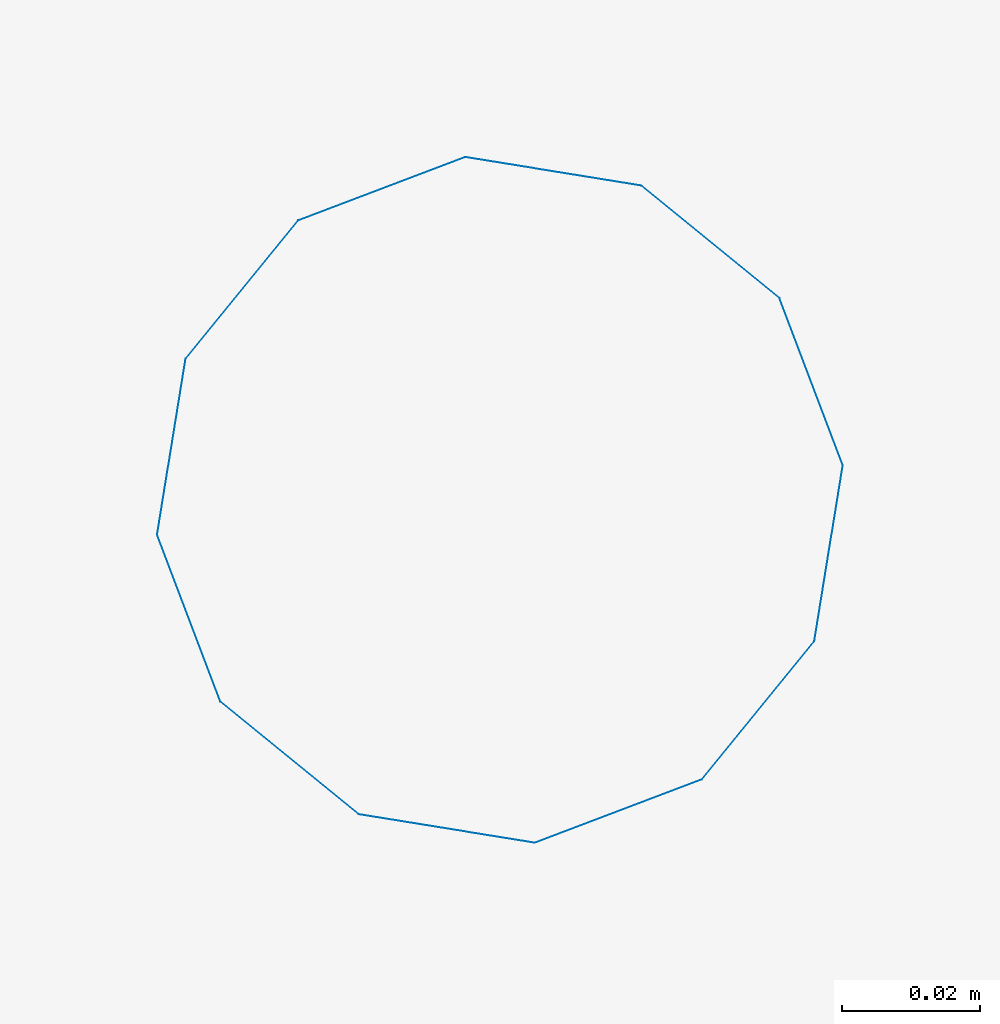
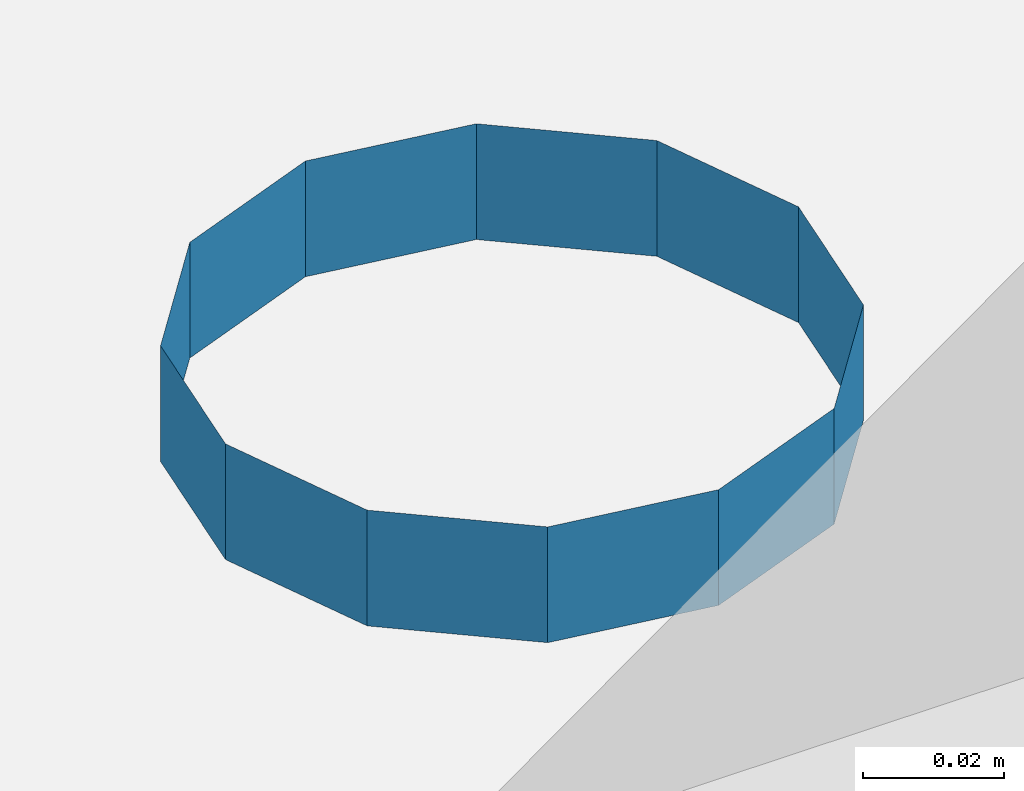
# One storey, part 102 of 171: 1 discrete accessory.
"""IFC2X3 building model written with IfcOpenShell, lengths in millimetres."""

from ifc_helpers import new_model, entity, si_unit, converted_unit, derived_unit, money_unit, direction, frame, origin_with_axes, place, context, subcontext, project, spatial, open_shell, surface_model, source, transform, mapped, type_object, element, save


model = new_model("IFC2X3")

# Units and contexts
model_context = context("Model", 3, precision=0.01, world=origin_with_axes(), true_north=direction((0.0, 1.0)))
body_context = subcontext(model_context, "Body", "Model", "MODEL_VIEW")
ifc_project = project(units=[si_unit("LENGTHUNIT", "METRE", prefix="MILLI"), si_unit("AREAUNIT", "SQUARE_METRE"), si_unit("VOLUMEUNIT", "CUBIC_METRE"), converted_unit("PLANEANGLEUNIT", "DEGREE", entity("IfcPlaneAngleMeasure", 0.0174532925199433), si_unit("PLANEANGLEUNIT", "RADIAN"), dimensions=[0, 0, 0, 0, 0, 0, 0]), money_unit("USD"), converted_unit("TIMEUNIT", "Year", entity("IfcTimeMeasure", 31557600.0), si_unit("TIMEUNIT", "SECOND"), dimensions=[0, 0, 1, 0, 0, 0, 0]), si_unit("MASSUNIT", "GRAM", prefix="KILO"), si_unit("THERMODYNAMICTEMPERATUREUNIT", "DEGREE_CELSIUS"), si_unit("LUMINOUSINTENSITYUNIT", "LUMEN"), si_unit("ENERGYUNIT", "JOULE", prefix="MEGA"), derived_unit("THERMALCONDUCTANCEUNIT", [(si_unit("POWERUNIT", "WATT"), 1), (si_unit("LENGTHUNIT", "METRE"), -1), (si_unit("THERMODYNAMICTEMPERATUREUNIT", "KELVIN"), -1)]), derived_unit("SPECIFICHEATCAPACITYUNIT", [(si_unit("ENERGYUNIT", "JOULE"), 1), (si_unit("MASSUNIT", "GRAM", prefix="KILO"), -1), (si_unit("THERMODYNAMICTEMPERATUREUNIT", "KELVIN"), -1)]), derived_unit("MASSDENSITYUNIT", [(si_unit("MASSUNIT", "GRAM", prefix="KILO"), 1), (si_unit("VOLUMEUNIT", "CUBIC_METRE"), -1)])], contexts=[model_context])

# Site, building, storey
site_placement = place(None, origin_with_axes())
site = spatial("IfcSite", under=ifc_project, at=site_placement, Name="Site", CompositionType="ELEMENT")
building_placement = place(site_placement, origin_with_axes())
building = spatial("IfcBuilding", under=site, at=building_placement, Name="Bâtiment", CompositionType="ELEMENT")
storey_placement = place(building_placement, frame((0.0, 0.0, 3000.0), z_axis=(0.0, 0.0, 1.0), x_axis=(1.0, 0.0, 0.0)))
storey = spatial("IfcBuildingStorey", under=building, at=storey_placement, Name="rdc", CompositionType="ELEMENT", Elevation=3000.0)

# Discrete accessory
discrete_accessory_type = type_object("IfcDiscreteAccessoryType", Name="Tuyau descente 27")
shared_shape = source(origin_with_axes(), body_context, "Body", "SurfaceModel", [
    surface_model("IfcShellBasedSurfaceModel", [(50.0, 0.0, 20.0), (43.30127018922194, -25.0, 20.0), (43.30127018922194, -25.0, 0.0), (50.0, 0.0, 0.0), (25.00000000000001, -43.30127018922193, 20.0), (25.00000000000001, -43.30127018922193, 0.0), (43.30127018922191, 25.00000000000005, 20.0), (43.30127018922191, 25.00000000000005, 0.0), (0.0, -50.0, 20.0), (0.0, -50.0, 0.0), (24.99999999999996, 43.30127018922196, 20.0), (24.99999999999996, 43.30127018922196, 0.0), (-24.99999999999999, -43.30127018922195, 20.0), (-24.99999999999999, -43.30127018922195, 0.0), (0.0, 50.0, 20.0), (0.0, 50.0, 0.0), (-43.30127018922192, -25.00000000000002, 20.0), (-43.30127018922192, -25.00000000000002, 0.0), (-25.00000000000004, 43.30127018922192, 20.0), (-25.00000000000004, 43.30127018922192, 0.0), (-50.0, 0.0, 20.0), (-50.0, 0.0, 0.0), (-43.30127018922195, 24.99999999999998, 20.0), (-43.30127018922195, 24.99999999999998, 0.0)], [open_shell([[[0, 1, 2, 3]], [[1, 4, 5, 2]], [[6, 0, 3, 7]], [[4, 8, 9, 5]], [[10, 6, 7, 11]], [[8, 12, 13, 9]], [[14, 10, 11, 15]], [[12, 16, 17, 13]], [[18, 14, 15, 19]], [[16, 20, 21, 17]], [[22, 18, 19, 23]], [[20, 22, 23, 21]]])]),
])
discrete_accessory_placement = place(storey_placement, frame((2233095.714705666, -646651.6255133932, 0.0), z_axis=(0.0, 0.0, 1.0), x_axis=(0.9948759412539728, 0.1011032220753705, 0.0)))
element("IfcDiscreteAccessory", 1, at=discrete_accessory_placement, inside=storey, type_object=discrete_accessory_type, Name="Obj.-318", context=body_context, shape_type="MappedRepresentation", body=[
    mapped(shared_shape, transform((0.0, 0.0, 0.0))),
])

save(model, "model.ifc")
